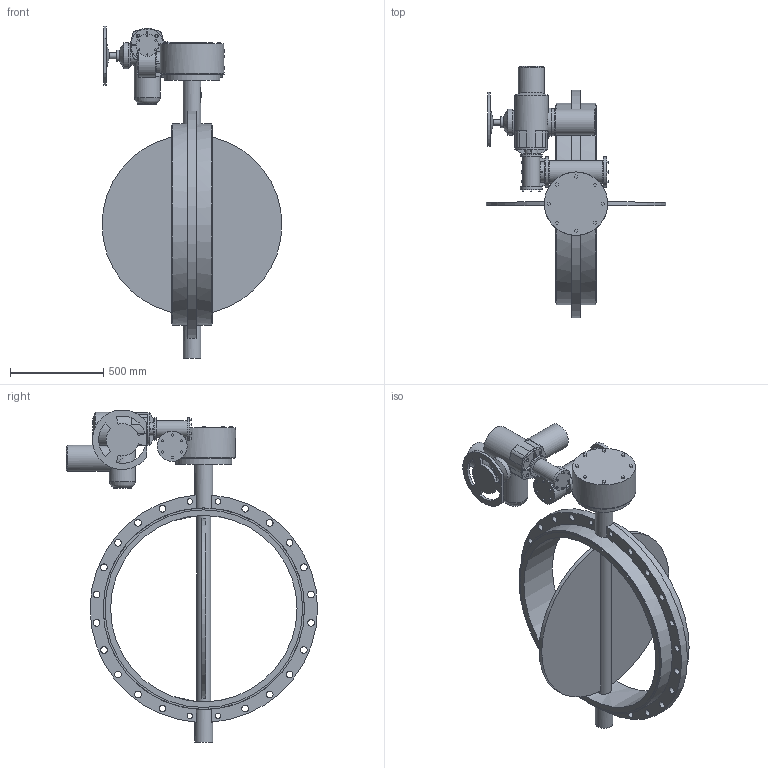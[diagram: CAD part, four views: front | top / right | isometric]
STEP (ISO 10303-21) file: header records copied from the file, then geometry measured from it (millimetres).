
FILE_DESCRIPTION(('STEP AP203'), '1');
FILE_NAME('青蜮铕 017W.YS_DN1000_PN10_MT903.A30', '', ('UNSPECIFIED'), ('UNSPECIFIED'), 'ASCON STEP Converter 1.6', 'ASCON Math Kernel', '');
FILE_SCHEMA(('CONFIG_CONTROL_DESIGN'));
Length unit declared in the file: millimetre
Bounding box: 965 x 1347 x 1780.49 mm (x, y, z)
Volume: 102840682.7 mm3; surface area: 5326876.8 mm2
Topology: 1 solids, 1 shells, 558 faces, 1442 edges, 950 vertices
Faces by surface type: plane 400, cylinder 111, cone 25, torus 20, bspline 2
Full cylindrical faces by diameter (mm): 13.835 x8, 14 x4, 18 x12, 29.211 x4, 32 x1, 36 x20, 60 x1, 75 x1, 90 x1, 95 x2, 100 x1, 120 x2, 121 x1, 140 x4, 147 x1, 151 x1, 161 x3, 175 x1, 300 x1, 340 x1, 1000 x1, 1060 x2, 1080 x2
Entity records: 24425 total; most frequent: CARTESIAN_POINT 6567, ORIENTED_EDGE 2658, DIRECTION 2629, EDGE_CURVE 1329, LINE 957, VECTOR 957, VERTEX_POINT 941, AXIS2_PLACEMENT_3D 836
